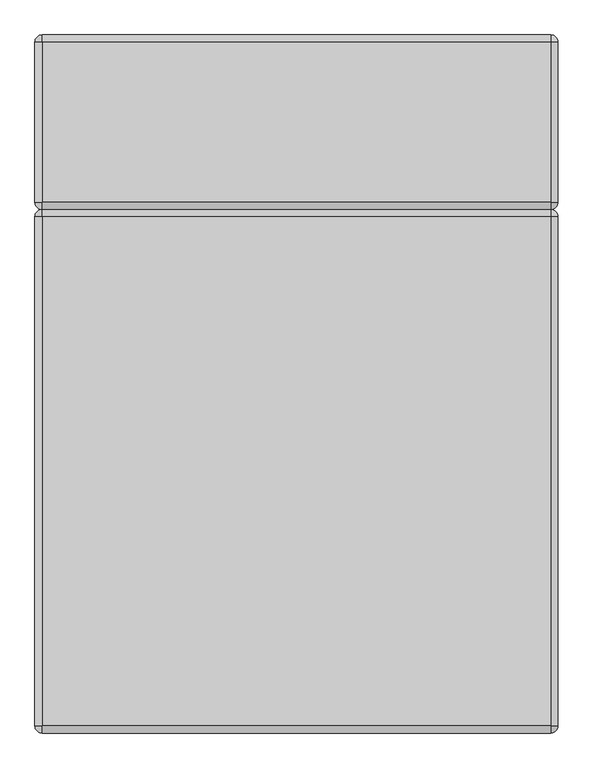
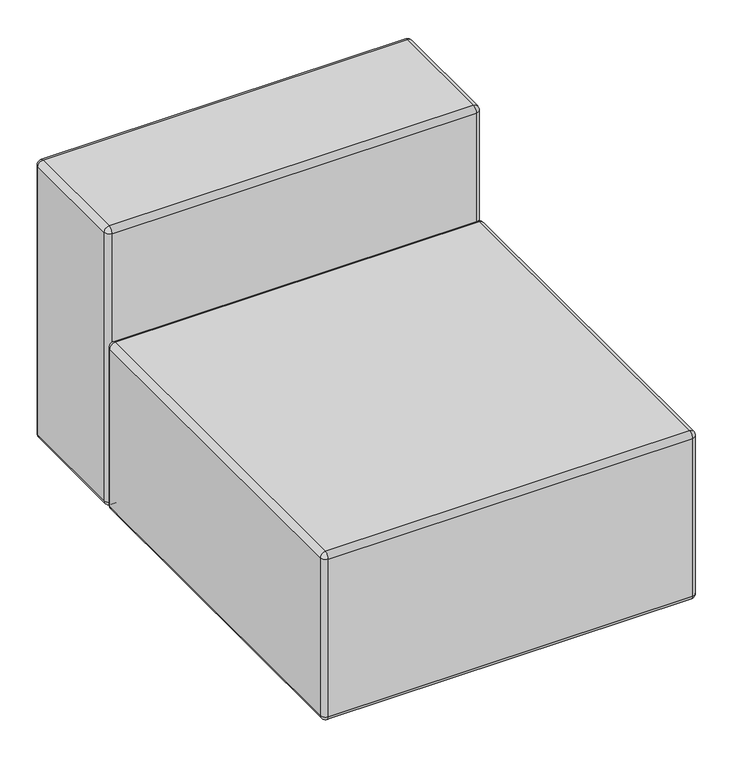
"""IFC4 building model written with IfcOpenShell, lengths in millimetres: furniture geometry, KFI Studios - Conversa : 36”x36” Seat with Back."""

from ifc_helpers import new_model, si_unit, point, frame, origin, place, context, project, spatial, polyline, circle_curve, ellipse_curve, trimmed, source, transform, mapped, element, save
from ifc_brep_helpers import plane_surface, cylinder_surface, revolved_surface, advanced_brep


def furniture_31a3f507(model_context):
    return source(origin(), model_context, "Body", "AdvancedBrep", [
        advanced_brep(
        [(373.3895895, 669.925, 25.4), (365.125, 669.925, 25.4), (356.8604105, 669.925, 25.4), (373.3895895, 669.925, 14.2843611), (356.8604105, 669.925, 14.2843611), (371.7876354, 669.925, 14.2843611), (358.4623646, 669.925, 14.2843611), (371.7876354, 669.925, 12.7064551), (358.4623646, 669.925, 12.7064551), (373.3890671, 669.925, 12.7064551), (356.8609329, 669.925, 12.7064551), (382.5741215, 669.925, 3.1950529), (347.6758785, 669.925, 3.1950529), (382.5741215, 669.925, 0.0), (347.6758785, 669.925, 0.0), (365.125, 669.925, 0.0)],
        [
            (0, 1),
            (1, 2),
            (2, 0, circle_curve(frame((365.125, 669.925, 25.4), z_axis=(0.0, 0.0, 1.0), x_axis=(-1.0, 0.0, 0.0)), 8.2645895)),
            (0, 2, circle_curve(frame((365.125, 669.925, 25.4), z_axis=(0.0, 0.0, 1.0), x_axis=(-1.0, 0.0, 0.0)), 8.2645895)),
            (3, 0),
            (2, 4),
            (4, 3, circle_curve(frame((365.125, 669.925, 14.2843611), z_axis=(0.0, 0.0, 1.0), x_axis=(-1.0, 0.0, 0.0)), 8.2645895)),
            (3, 4, circle_curve(frame((365.125, 669.925, 14.2843611), z_axis=(0.0, 0.0, 1.0), x_axis=(-1.0, 0.0, 0.0)), 8.2645895)),
            (5, 3),
            (4, 6),
            (6, 5, circle_curve(frame((365.125, 669.925, 14.2843611), z_axis=(0.0, 0.0, 1.0), x_axis=(-1.0, 0.0, 0.0)), 6.6626354)),
            (5, 6, circle_curve(frame((365.125, 669.925, 14.2843611), z_axis=(0.0, 0.0, 1.0), x_axis=(-1.0, 0.0, 0.0)), 6.6626354)),
            (7, 5),
            (6, 8),
            (8, 7, circle_curve(frame((365.125, 669.925, 12.7064551), z_axis=(0.0, 0.0, 1.0), x_axis=(-1.0, 0.0, 0.0)), 6.6626354)),
            (7, 8, circle_curve(frame((365.125, 669.925, 12.7064551), z_axis=(0.0, 0.0, 1.0), x_axis=(-1.0, 0.0, 0.0)), 6.6626354)),
            (9, 7),
            (8, 10),
            (10, 9, circle_curve(frame((365.125, 669.925, 12.7064551), z_axis=(0.0, 0.0, 1.0), x_axis=(-1.0, 0.0, 0.0)), 8.2640671)),
            (9, 10, circle_curve(frame((365.125, 669.925, 12.7064551), z_axis=(0.0, 0.0, 1.0), x_axis=(-1.0, 0.0, 0.0)), 8.2640671)),
            (11, 9),
            (10, 12),
            (12, 11, circle_curve(frame((365.125, 669.925, 3.1950529), z_axis=(0.0, 0.0, 1.0), x_axis=(-1.0, 0.0, 0.0)), 17.4491215)),
            (11, 12, circle_curve(frame((365.125, 669.925, 3.1950529), z_axis=(0.0, 0.0, 1.0), x_axis=(-1.0, 0.0, 0.0)), 17.4491215)),
            (13, 11),
            (12, 14),
            (14, 13, circle_curve(frame((365.125, 669.925, 0.0), z_axis=(0.0, 0.0, 1.0), x_axis=(-1.0, 0.0, 0.0)), 17.4491215)),
            (13, 14, circle_curve(frame((365.125, 669.925, 0.0), z_axis=(0.0, 0.0, 1.0), x_axis=(-1.0, 0.0, 0.0)), 17.4491215)),
            (15, 13),
            (14, 15),
        ],
        [
            plane_surface(frame((365.125, 669.925, 25.4), z_axis=(0.0, 0.0, 1.0), x_axis=(-1.0, 0.0, 0.0))),
            cylinder_surface(frame((365.125, 669.925, 33.820929), z_axis=(0.0, 0.0, -1.0), x_axis=(-1.0, 0.0, 0.0)), 8.2645895),
            plane_surface(frame((365.125, 669.925, 14.2843611), z_axis=(0.0, 0.0, -1.0), x_axis=(-1.0, 0.0, 0.0))),
            cylinder_surface(frame((365.125, 669.925, 33.820929), z_axis=(0.0, 0.0, -1.0), x_axis=(-1.0, 0.0, 0.0)), 6.6626354),
            plane_surface(frame((365.125, 669.925, 12.7064551), z_axis=(0.0, 0.0, 1.0), x_axis=(-1.0, 0.0, 0.0))),
            revolved_surface(polyline([(356.8609329, 669.925, 12.7064551), (347.6758785, 669.925, 3.1950529)]), (365.125, 669.925, 33.820929), (0.0, 0.0, -1.0)),
            cylinder_surface(frame((365.125, 669.925, 33.820929), z_axis=(0.0, 0.0, -1.0), x_axis=(-1.0, 0.0, 0.0)), 17.4491215),
            plane_surface(frame((365.125, 669.925, 0.0), z_axis=(0.0, 0.0, -1.0), x_axis=(-1.0, 0.0, 0.0))),
        ],
        [
            (0, [[1, 2, 3]]),
            (0, [[-2, -1, 4]]),
            (1, [[5, -3, 6, 7]]),
            (1, [[-6, -4, -5, 8]]),
            (2, [[9, -7, 10, 11]]),
            (2, [[-10, -8, -9, 12]]),
            (3, [[13, -11, 14, 15]]),
            (3, [[-14, -12, -13, 16]]),
            (4, [[17, -15, 18, 19]]),
            (4, [[-18, -16, -17, 20]]),
            (5, [[21, -19, 22, 23]]),
            (5, [[-22, -20, -21, 24]]),
            (6, [[25, -23, 26, 27]]),
            (6, [[-26, -24, -25, 28]]),
            (7, [[29, -27, 30]]),
            (7, [[-30, -28, -29]]),
        ],
    ),
        advanced_brep(
        [(-356.8604105, 669.925, 25.4), (-365.125, 669.925, 25.4), (-373.3895895, 669.925, 25.4), (-356.8604105, 669.925, 14.2843611), (-373.3895895, 669.925, 14.2843611), (-358.4623646, 669.925, 14.2843611), (-371.7876354, 669.925, 14.2843611), (-358.4623646, 669.925, 12.7064551), (-371.7876354, 669.925, 12.7064551), (-356.8609329, 669.925, 12.7064551), (-373.3890671, 669.925, 12.7064551), (-347.6758785, 669.925, 3.1950529), (-382.5741215, 669.925, 3.1950529), (-347.6758785, 669.925, 0.0), (-382.5741215, 669.925, 0.0), (-365.125, 669.925, 0.0)],
        [
            (0, 1),
            (1, 2),
            (2, 0, circle_curve(frame((-365.125, 669.925, 25.4), z_axis=(0.0, 0.0, 1.0), x_axis=(-1.0, 0.0, 0.0)), 8.2645895)),
            (0, 2, circle_curve(frame((-365.125, 669.925, 25.4), z_axis=(0.0, 0.0, 1.0), x_axis=(-1.0, 0.0, 0.0)), 8.2645895)),
            (3, 0),
            (2, 4),
            (4, 3, circle_curve(frame((-365.125, 669.925, 14.2843611), z_axis=(0.0, 0.0, 1.0), x_axis=(-1.0, 0.0, 0.0)), 8.2645895)),
            (3, 4, circle_curve(frame((-365.125, 669.925, 14.2843611), z_axis=(0.0, 0.0, 1.0), x_axis=(-1.0, 0.0, 0.0)), 8.2645895)),
            (5, 3),
            (4, 6),
            (6, 5, circle_curve(frame((-365.125, 669.925, 14.2843611), z_axis=(0.0, 0.0, 1.0), x_axis=(-1.0, 0.0, 0.0)), 6.6626354)),
            (5, 6, circle_curve(frame((-365.125, 669.925, 14.2843611), z_axis=(0.0, 0.0, 1.0), x_axis=(-1.0, 0.0, 0.0)), 6.6626354)),
            (7, 5),
            (6, 8),
            (8, 7, circle_curve(frame((-365.125, 669.925, 12.7064551), z_axis=(0.0, 0.0, 1.0), x_axis=(-1.0, 0.0, 0.0)), 6.6626354)),
            (7, 8, circle_curve(frame((-365.125, 669.925, 12.7064551), z_axis=(0.0, 0.0, 1.0), x_axis=(-1.0, 0.0, 0.0)), 6.6626354)),
            (9, 7),
            (8, 10),
            (10, 9, circle_curve(frame((-365.125, 669.925, 12.7064551), z_axis=(0.0, 0.0, 1.0), x_axis=(-1.0, 0.0, 0.0)), 8.2640671)),
            (9, 10, circle_curve(frame((-365.125, 669.925, 12.7064551), z_axis=(0.0, 0.0, 1.0), x_axis=(-1.0, 0.0, 0.0)), 8.2640671)),
            (11, 9),
            (10, 12),
            (12, 11, circle_curve(frame((-365.125, 669.925, 3.1950529), z_axis=(0.0, 0.0, 1.0), x_axis=(-1.0, 0.0, 0.0)), 17.4491215)),
            (11, 12, circle_curve(frame((-365.125, 669.925, 3.1950529), z_axis=(0.0, 0.0, 1.0), x_axis=(-1.0, 0.0, 0.0)), 17.4491215)),
            (13, 11),
            (12, 14),
            (14, 13, circle_curve(frame((-365.125, 669.925, 0.0), z_axis=(0.0, 0.0, 1.0), x_axis=(-1.0, 0.0, 0.0)), 17.4491215)),
            (13, 14, circle_curve(frame((-365.125, 669.925, 0.0), z_axis=(0.0, 0.0, 1.0), x_axis=(-1.0, 0.0, 0.0)), 17.4491215)),
            (15, 13),
            (14, 15),
        ],
        [
            plane_surface(frame((-365.125, 669.925, 25.4), z_axis=(0.0, 0.0, 1.0), x_axis=(-1.0, 0.0, 0.0))),
            cylinder_surface(frame((-365.125, 669.925, 33.820929), z_axis=(0.0, 0.0, -1.0), x_axis=(-1.0, 0.0, 0.0)), 8.2645895),
            plane_surface(frame((-365.125, 669.925, 14.2843611), z_axis=(0.0, 0.0, -1.0), x_axis=(-1.0, 0.0, 0.0))),
            cylinder_surface(frame((-365.125, 669.925, 33.820929), z_axis=(0.0, 0.0, -1.0), x_axis=(-1.0, 0.0, 0.0)), 6.6626354),
            plane_surface(frame((-365.125, 669.925, 12.7064551), z_axis=(0.0, 0.0, 1.0), x_axis=(-1.0, 0.0, 0.0))),
            revolved_surface(polyline([(-373.3890671, 669.925, 12.7064551), (-382.5741215, 669.925, 3.1950529)]), (-365.125, 669.925, 33.820929), (0.0, 0.0, -1.0)),
            cylinder_surface(frame((-365.125, 669.925, 33.820929), z_axis=(0.0, 0.0, -1.0), x_axis=(-1.0, 0.0, 0.0)), 17.4491215),
            plane_surface(frame((-365.125, 669.925, 0.0), z_axis=(0.0, 0.0, -1.0), x_axis=(-1.0, 0.0, 0.0))),
        ],
        [
            (0, [[1, 2, 3]]),
            (0, [[-2, -1, 4]]),
            (1, [[5, -3, 6, 7]]),
            (1, [[-6, -4, -5, 8]]),
            (2, [[9, -7, 10, 11]]),
            (2, [[-10, -8, -9, 12]]),
            (3, [[13, -11, 14, 15]]),
            (3, [[-14, -12, -13, 16]]),
            (4, [[17, -15, 18, 19]]),
            (4, [[-18, -16, -17, 20]]),
            (5, [[21, -19, 22, 23]]),
            (5, [[-22, -20, -21, 24]]),
            (6, [[25, -23, 26, 27]]),
            (6, [[-26, -24, -25, 28]]),
            (7, [[29, -27, 30]]),
            (7, [[-30, -28, -29]]),
        ],
    ),
        advanced_brep(
        [(-457.2, 749.3, 730.25), (-457.2, 469.9, 730.25), (-444.5, 469.9, 742.95), (-444.5, 749.3, 742.95), (-457.2, 749.3, 38.1), (-457.2, 469.9, 38.1), (-444.5, 749.3, 25.4), (-444.5, 469.9, 25.4), (-444.5, 457.2, 730.25), (444.5, 457.2, 730.25), (444.5, 469.9, 742.95), (-444.5, 457.2, 38.1), (444.5, 457.2, 38.1), (444.5, 469.9, 25.4), (444.5, 749.3, 742.95), (444.5, 749.3, 25.4), (444.5, 762.0, 730.25), (-444.5, 762.0, 730.25), (444.5, 762.0, 38.1), (-444.5, 762.0, 38.1), (457.2, 469.9, 730.25), (457.2, 749.3, 730.25), (457.2, 469.9, 38.1), (457.2, 749.3, 38.1)],
        [
            (0, 1),
            (1, 2, circle_curve(frame((-444.5, 469.9, 730.25), z_axis=(0.0, 1.0, 0.0), x_axis=(-1.0, 0.0, 0.0)), 12.7)),
            (2, 3),
            (3, 0, circle_curve(frame((-444.5, 749.3, 730.25), z_axis=(0.0, -1.0, 0.0), x_axis=(-1.0, 0.0, 0.0)), 12.7)),
            (0, 4),
            (4, 5),
            (5, 1),
            (4, 6, circle_curve(frame((-444.5, 749.3, 38.1), z_axis=(0.0, -1.0, 0.0), x_axis=(-1.0, 0.0, 0.0)), 12.7)),
            (6, 7),
            (7, 5, circle_curve(frame((-444.5, 469.9, 38.1), z_axis=(0.0, 1.0, 0.0), x_axis=(-1.0, 0.0, 0.0)), 12.7)),
            (8, 9),
            (9, 10, circle_curve(frame((444.5, 469.9, 730.25), z_axis=(-1.0, 0.0, 0.0), x_axis=(0.0, 1.0, 0.0)), 12.7)),
            (10, 2),
            (2, 8, circle_curve(frame((-444.5, 469.9, 730.25), z_axis=(1.0, 0.0, 0.0), x_axis=(0.0, 1.0, 0.0)), 12.7)),
            (8, 11),
            (11, 12),
            (12, 9),
            (11, 7, circle_curve(frame((-444.5, 469.9, 38.1), z_axis=(1.0, 0.0, 0.0), x_axis=(0.0, 1.0, 0.0)), 12.7)),
            (7, 13),
            (13, 12, circle_curve(frame((444.5, 469.9, 38.1), z_axis=(-1.0, 0.0, 0.0), x_axis=(0.0, 1.0, 0.0)), 12.7)),
            (10, 14),
            (14, 3),
            (6, 15),
            (15, 13),
            (16, 17),
            (17, 3, circle_curve(frame((-444.5, 749.3, 730.25), z_axis=(1.0, 0.0, 0.0), x_axis=(0.0, 1.0, 0.0)), 12.7)),
            (14, 16, circle_curve(frame((444.5, 749.3, 730.25), z_axis=(-1.0, 0.0, 0.0), x_axis=(0.0, 1.0, 0.0)), 12.7)),
            (16, 18),
            (18, 19),
            (19, 17),
            (18, 15, circle_curve(frame((444.5, 749.3, 38.1), z_axis=(-1.0, 0.0, 0.0), x_axis=(0.0, 1.0, 0.0)), 12.7)),
            (6, 19, circle_curve(frame((-444.5, 749.3, 38.1), z_axis=(1.0, 0.0, 0.0), x_axis=(0.0, 1.0, 0.0)), 12.7)),
            (20, 21),
            (21, 14, circle_curve(frame((444.5, 749.3, 730.25), z_axis=(0.0, -1.0, 0.0), x_axis=(-1.0, 0.0, 0.0)), 12.7)),
            (10, 20, circle_curve(frame((444.5, 469.9, 730.25), z_axis=(0.0, 1.0, 0.0), x_axis=(-1.0, 0.0, 0.0)), 12.7)),
            (20, 22),
            (22, 23),
            (23, 21),
            (22, 13, circle_curve(frame((444.5, 469.9, 38.1), z_axis=(0.0, 1.0, 0.0), x_axis=(-1.0, 0.0, 0.0)), 12.7)),
            (15, 23, circle_curve(frame((444.5, 749.3, 38.1), z_axis=(0.0, -1.0, 0.0), x_axis=(-1.0, 0.0, 0.0)), 12.7)),
            (19, 4, circle_curve(frame((-444.5, 749.3, 38.1), z_axis=(0.0, 0.0, 1.0), x_axis=(-1.0, 0.0, 0.0)), 12.7)),
            (0, 17, circle_curve(frame((-444.5, 749.3, 730.25), z_axis=(0.0, 0.0, -1.0), x_axis=(-1.0, 0.0, 0.0)), 12.7)),
            (8, 1, circle_curve(frame((-444.5, 469.9, 730.25), z_axis=(0.0, 0.0, -1.0), x_axis=(-1.0, 0.0, 0.0)), 12.7)),
            (5, 11, circle_curve(frame((-444.5, 469.9, 38.1), z_axis=(0.0, 0.0, 1.0), x_axis=(-1.0, 0.0, 0.0)), 12.7)),
            (12, 22, circle_curve(frame((444.5, 469.9, 38.1), z_axis=(0.0, 0.0, 1.0), x_axis=(1.0, 0.0, 0.0)), 12.7)),
            (20, 9, circle_curve(frame((444.5, 469.9, 730.25), z_axis=(0.0, 0.0, -1.0), x_axis=(1.0, 0.0, 0.0)), 12.7)),
            (16, 21, circle_curve(frame((444.5, 749.3, 730.25), z_axis=(0.0, 0.0, -1.0), x_axis=(1.0, 0.0, 0.0)), 12.7)),
            (23, 18, circle_curve(frame((444.5, 749.3, 38.1), z_axis=(0.0, 0.0, 1.0), x_axis=(1.0, 0.0, 0.0)), 12.7)),
        ],
        [
            cylinder_surface(frame((-444.5, 469.9, 730.25), z_axis=(0.0, -1.0, 0.0), x_axis=(-1.0, 0.0, 0.0)), 12.7),
            plane_surface(frame((-457.2, 469.9, 730.25), z_axis=(-1.0, 0.0, 0.0), x_axis=(0.0, 1.0, 0.0))),
            cylinder_surface(frame((-444.5, 469.9, 38.1), z_axis=(0.0, -1.0, 0.0), x_axis=(-1.0, 0.0, 0.0)), 12.7),
            cylinder_surface(frame((-444.5, 469.9, 730.25), z_axis=(-1.0, 0.0, 0.0), x_axis=(0.0, 1.0, 0.0)), 12.7),
            plane_surface(frame((-444.5, 457.2, 38.1), z_axis=(0.0, -1.0, 0.0), x_axis=(1.0, 0.0, 0.0))),
            cylinder_surface(frame((-444.5, 469.9, 38.1), z_axis=(-1.0, 0.0, 0.0), x_axis=(0.0, 1.0, 0.0)), 12.7),
            plane_surface(frame((-444.5, 749.3, 742.95), z_axis=(0.0, 0.0, 1.0), x_axis=(-1.0, 0.0, 0.0))),
            plane_surface(frame((-444.5, 749.3, 25.4), z_axis=(0.0, 0.0, -1.0), x_axis=(1.0, 0.0, 0.0))),
            cylinder_surface(frame((-444.5, 749.3, 730.25), z_axis=(-1.0, 0.0, 0.0), x_axis=(0.0, 1.0, 0.0)), 12.7),
            plane_surface(frame((-444.5, 762.0, 730.25), z_axis=(0.0, 1.0, 0.0), x_axis=(1.0, 0.0, 0.0))),
            cylinder_surface(frame((-444.5, 749.3, 38.1), z_axis=(-1.0, 0.0, 0.0), x_axis=(0.0, 1.0, 0.0)), 12.7),
            cylinder_surface(frame((444.5, 469.9, 730.25), z_axis=(0.0, -1.0, 0.0), x_axis=(-1.0, 0.0, 0.0)), 12.7),
            plane_surface(frame((457.2, 469.9, 38.1), z_axis=(1.0, 0.0, 0.0), x_axis=(0.0, 1.0, 0.0))),
            cylinder_surface(frame((444.5, 469.9, 38.1), z_axis=(0.0, -1.0, 0.0), x_axis=(-1.0, 0.0, 0.0)), 12.7),
            cylinder_surface(frame((-444.5, 749.3, 742.95), z_axis=(0.0, 0.0, 1.0), x_axis=(-1.0, 0.0, 0.0)), 12.7),
            revolved_surface(trimmed(ellipse_curve(frame((-444.5, 749.3, 38.1), z_axis=(0.0, 1.0, 0.0), x_axis=(0.0, 0.0, 1.0)), 12.7, 12.7), [point((-444.5, 749.3, 25.4))], [point((-457.2, 749.3, 38.1))], True, "CARTESIAN"), (-444.5, 749.3, 742.95), (0.0, 0.0, 1.0)),
            revolved_surface(trimmed(ellipse_curve(frame((-444.5, 749.3, 730.25), z_axis=(0.0, 1.0, 0.0), x_axis=(0.0, 0.0, 1.0)), 12.7, 12.7), [point((-457.2, 749.3, 730.25))], [point((-444.5, 749.3, 742.95))], True, "CARTESIAN"), (-444.5, 749.3, 742.95), (0.0, 0.0, 1.0)),
            cylinder_surface(frame((-444.5, 469.9, 592.6689642), z_axis=(0.0, 0.0, -1.0), x_axis=(-1.0, 0.0, 0.0)), 12.7),
            revolved_surface(trimmed(ellipse_curve(frame((-444.5, 469.9, 730.25), z_axis=(0.0, -1.0, 0.0), x_axis=(1.0, 0.0, 0.0)), 12.7, 12.7), [point((-444.5, 469.9, 742.95))], [point((-457.2, 469.9, 730.25))], True, "CARTESIAN"), (-444.5, 469.9, 592.6689642), (0.0, 0.0, -1.0)),
            revolved_surface(trimmed(ellipse_curve(frame((-444.5, 469.9, 38.1), z_axis=(0.0, -1.0, 0.0), x_axis=(1.0, 0.0, 0.0)), 12.7, 12.7), [point((-457.2, 469.9, 38.1))], [point((-444.5, 469.9, 25.4))], True, "CARTESIAN"), (-444.5, 469.9, 592.6689642), (0.0, 0.0, -1.0)),
            cylinder_surface(frame((444.5, 469.9, 742.95), z_axis=(0.0, 0.0, 1.0), x_axis=(1.0, 0.0, 0.0)), 12.7),
            revolved_surface(trimmed(ellipse_curve(frame((444.5, 469.9, 38.1), z_axis=(0.0, -1.0, 0.0), x_axis=(1.0, 0.0, 0.0)), 12.7, 12.7), [point((444.5, 469.9, 25.4))], [point((457.2, 469.9, 38.1))], True, "CARTESIAN"), (444.5, 469.9, 742.95), (0.0, 0.0, 1.0)),
            revolved_surface(trimmed(ellipse_curve(frame((444.5, 469.9, 730.25), z_axis=(0.0, -1.0, 0.0), x_axis=(1.0, 0.0, 0.0)), 12.7, 12.7), [point((457.2, 469.9, 730.25))], [point((444.5, 469.9, 742.95))], True, "CARTESIAN"), (444.5, 469.9, 742.95), (0.0, 0.0, 1.0)),
            cylinder_surface(frame((444.5, 749.3, 592.6689642), z_axis=(0.0, 0.0, -1.0), x_axis=(1.0, 0.0, 0.0)), 12.7),
            revolved_surface(trimmed(ellipse_curve(frame((444.5, 749.3, 730.25), z_axis=(0.0, 1.0, 0.0), x_axis=(0.0, 0.0, 1.0)), 12.7, 12.7), [point((444.5, 749.3, 742.95))], [point((457.2, 749.3, 730.25))], True, "CARTESIAN"), (444.5, 749.3, 592.6689642), (0.0, 0.0, -1.0)),
            revolved_surface(trimmed(ellipse_curve(frame((444.5, 749.3, 38.1), z_axis=(0.0, 1.0, 0.0), x_axis=(0.0, 0.0, 1.0)), 12.7, 12.7), [point((457.2, 749.3, 38.1))], [point((444.5, 749.3, 25.4))], True, "CARTESIAN"), (444.5, 749.3, 592.6689642), (0.0, 0.0, -1.0)),
        ],
        [
            (0, [[1, 2, 3, 4]]),
            (1, [[-1, 5, 6, 7]]),
            (2, [[-6, 8, 9, 10]]),
            (3, [[11, 12, 13, 14]]),
            (4, [[-11, 15, 16, 17]]),
            (5, [[-16, 18, 19, 20]]),
            (6, [[-3, -13, 21, 22]]),
            (7, [[-9, 23, 24, -19]]),
            (8, [[25, 26, -22, 27]]),
            (9, [[-25, 28, 29, 30]]),
            (10, [[-29, 31, -23, 32]]),
            (11, [[33, 34, -21, 35]]),
            (12, [[-33, 36, 37, 38]]),
            (13, [[-37, 39, -24, 40]]),
            (14, [[41, -5, 42, -30]]),
            (15, [[-41, -32, -8]]),
            (16, [[-42, -4, -26]]),
            (17, [[43, -7, 44, -15]]),
            (18, [[-43, -14, -2]]),
            (19, [[-44, -10, -18]]),
            (20, [[45, -36, 46, -17]]),
            (21, [[-45, -20, -39]]),
            (22, [[-46, -35, -12]]),
            (23, [[47, -38, 48, -28]]),
            (24, [[-47, -27, -34]]),
            (25, [[-48, -40, -31]]),
        ],
    ),
        advanced_brep(
        [(373.3895895, 365.125, 25.4), (365.125, 365.125, 25.4), (356.8604105, 365.125, 25.4), (373.3895895, 365.125, 14.2843611), (356.8604105, 365.125, 14.2843611), (371.7876354, 365.125, 14.2843611), (358.4623646, 365.125, 14.2843611), (371.7876354, 365.125, 12.7064551), (358.4623646, 365.125, 12.7064551), (373.3890671, 365.125, 12.7064551), (356.8609329, 365.125, 12.7064551), (382.5741215, 365.125, 3.1950529), (347.6758785, 365.125, 3.1950529), (382.5741215, 365.125, 0.0), (347.6758785, 365.125, 0.0), (365.125, 365.125, 0.0)],
        [
            (0, 1),
            (1, 2),
            (2, 0, circle_curve(frame((365.125, 365.125, 25.4), z_axis=(0.0, 0.0, 1.0), x_axis=(-1.0, 0.0, 0.0)), 8.2645895)),
            (0, 2, circle_curve(frame((365.125, 365.125, 25.4), z_axis=(0.0, 0.0, 1.0), x_axis=(-1.0, 0.0, 0.0)), 8.2645895)),
            (3, 0),
            (2, 4),
            (4, 3, circle_curve(frame((365.125, 365.125, 14.2843611), z_axis=(0.0, 0.0, 1.0), x_axis=(-1.0, 0.0, 0.0)), 8.2645895)),
            (3, 4, circle_curve(frame((365.125, 365.125, 14.2843611), z_axis=(0.0, 0.0, 1.0), x_axis=(-1.0, 0.0, 0.0)), 8.2645895)),
            (5, 3),
            (4, 6),
            (6, 5, circle_curve(frame((365.125, 365.125, 14.2843611), z_axis=(0.0, 0.0, 1.0), x_axis=(-1.0, 0.0, 0.0)), 6.6626354)),
            (5, 6, circle_curve(frame((365.125, 365.125, 14.2843611), z_axis=(0.0, 0.0, 1.0), x_axis=(-1.0, 0.0, 0.0)), 6.6626354)),
            (7, 5),
            (6, 8),
            (8, 7, circle_curve(frame((365.125, 365.125, 12.7064551), z_axis=(0.0, 0.0, 1.0), x_axis=(-1.0, 0.0, 0.0)), 6.6626354)),
            (7, 8, circle_curve(frame((365.125, 365.125, 12.7064551), z_axis=(0.0, 0.0, 1.0), x_axis=(-1.0, 0.0, 0.0)), 6.6626354)),
            (9, 7),
            (8, 10),
            (10, 9, circle_curve(frame((365.125, 365.125, 12.7064551), z_axis=(0.0, 0.0, 1.0), x_axis=(-1.0, 0.0, 0.0)), 8.2640671)),
            (9, 10, circle_curve(frame((365.125, 365.125, 12.7064551), z_axis=(0.0, 0.0, 1.0), x_axis=(-1.0, 0.0, 0.0)), 8.2640671)),
            (11, 9),
            (10, 12),
            (12, 11, circle_curve(frame((365.125, 365.125, 3.1950529), z_axis=(0.0, 0.0, 1.0), x_axis=(-1.0, 0.0, 0.0)), 17.4491215)),
            (11, 12, circle_curve(frame((365.125, 365.125, 3.1950529), z_axis=(0.0, 0.0, 1.0), x_axis=(-1.0, 0.0, 0.0)), 17.4491215)),
            (13, 11),
            (12, 14),
            (14, 13, circle_curve(frame((365.125, 365.125, 0.0), z_axis=(0.0, 0.0, 1.0), x_axis=(-1.0, 0.0, 0.0)), 17.4491215)),
            (13, 14, circle_curve(frame((365.125, 365.125, 0.0), z_axis=(0.0, 0.0, 1.0), x_axis=(-1.0, 0.0, 0.0)), 17.4491215)),
            (15, 13),
            (14, 15),
        ],
        [
            plane_surface(frame((365.125, 365.125, 25.4), z_axis=(0.0, 0.0, 1.0), x_axis=(-1.0, 0.0, 0.0))),
            cylinder_surface(frame((365.125, 365.125, 33.820929), z_axis=(0.0, 0.0, -1.0), x_axis=(-1.0, 0.0, 0.0)), 8.2645895),
            plane_surface(frame((365.125, 365.125, 14.2843611), z_axis=(0.0, 0.0, -1.0), x_axis=(-1.0, 0.0, 0.0))),
            cylinder_surface(frame((365.125, 365.125, 33.820929), z_axis=(0.0, 0.0, -1.0), x_axis=(-1.0, 0.0, 0.0)), 6.6626354),
            plane_surface(frame((365.125, 365.125, 12.7064551), z_axis=(0.0, 0.0, 1.0), x_axis=(-1.0, 0.0, 0.0))),
            revolved_surface(polyline([(356.8609329, 365.125, 12.7064551), (347.6758785, 365.125, 3.1950529)]), (365.125, 365.125, 33.820929), (0.0, 0.0, -1.0)),
            cylinder_surface(frame((365.125, 365.125, 33.820929), z_axis=(0.0, 0.0, -1.0), x_axis=(-1.0, 0.0, 0.0)), 17.4491215),
            plane_surface(frame((365.125, 365.125, 0.0), z_axis=(0.0, 0.0, -1.0), x_axis=(-1.0, 0.0, 0.0))),
        ],
        [
            (0, [[1, 2, 3]]),
            (0, [[-2, -1, 4]]),
            (1, [[5, -3, 6, 7]]),
            (1, [[-6, -4, -5, 8]]),
            (2, [[9, -7, 10, 11]]),
            (2, [[-10, -8, -9, 12]]),
            (3, [[13, -11, 14, 15]]),
            (3, [[-14, -12, -13, 16]]),
            (4, [[17, -15, 18, 19]]),
            (4, [[-18, -16, -17, 20]]),
            (5, [[21, -19, 22, 23]]),
            (5, [[-22, -20, -21, 24]]),
            (6, [[25, -23, 26, 27]]),
            (6, [[-26, -24, -25, 28]]),
            (7, [[29, -27, 30]]),
            (7, [[-30, -28, -29]]),
        ],
    ),
        advanced_brep(
        [(-356.8604105, 365.125, 25.4), (-365.125, 365.125, 25.4), (-373.3895895, 365.125, 25.4), (-356.8604105, 365.125, 14.2843611), (-373.3895895, 365.125, 14.2843611), (-358.4623646, 365.125, 14.2843611), (-371.7876354, 365.125, 14.2843611), (-358.4623646, 365.125, 12.7064551), (-371.7876354, 365.125, 12.7064551), (-356.8609329, 365.125, 12.7064551), (-373.3890671, 365.125, 12.7064551), (-347.6758785, 365.125, 3.1950529), (-382.5741215, 365.125, 3.1950529), (-347.6758785, 365.125, 0.0), (-382.5741215, 365.125, 0.0), (-365.125, 365.125, 0.0)],
        [
            (0, 1),
            (1, 2),
            (2, 0, circle_curve(frame((-365.125, 365.125, 25.4), z_axis=(0.0, 0.0, 1.0), x_axis=(-1.0, 0.0, 0.0)), 8.2645895)),
            (0, 2, circle_curve(frame((-365.125, 365.125, 25.4), z_axis=(0.0, 0.0, 1.0), x_axis=(-1.0, 0.0, 0.0)), 8.2645895)),
            (3, 0),
            (2, 4),
            (4, 3, circle_curve(frame((-365.125, 365.125, 14.2843611), z_axis=(0.0, 0.0, 1.0), x_axis=(-1.0, 0.0, 0.0)), 8.2645895)),
            (3, 4, circle_curve(frame((-365.125, 365.125, 14.2843611), z_axis=(0.0, 0.0, 1.0), x_axis=(-1.0, 0.0, 0.0)), 8.2645895)),
            (5, 3),
            (4, 6),
            (6, 5, circle_curve(frame((-365.125, 365.125, 14.2843611), z_axis=(0.0, 0.0, 1.0), x_axis=(-1.0, 0.0, 0.0)), 6.6626354)),
            (5, 6, circle_curve(frame((-365.125, 365.125, 14.2843611), z_axis=(0.0, 0.0, 1.0), x_axis=(-1.0, 0.0, 0.0)), 6.6626354)),
            (7, 5),
            (6, 8),
            (8, 7, circle_curve(frame((-365.125, 365.125, 12.7064551), z_axis=(0.0, 0.0, 1.0), x_axis=(-1.0, 0.0, 0.0)), 6.6626354)),
            (7, 8, circle_curve(frame((-365.125, 365.125, 12.7064551), z_axis=(0.0, 0.0, 1.0), x_axis=(-1.0, 0.0, 0.0)), 6.6626354)),
            (9, 7),
            (8, 10),
            (10, 9, circle_curve(frame((-365.125, 365.125, 12.7064551), z_axis=(0.0, 0.0, 1.0), x_axis=(-1.0, 0.0, 0.0)), 8.2640671)),
            (9, 10, circle_curve(frame((-365.125, 365.125, 12.7064551), z_axis=(0.0, 0.0, 1.0), x_axis=(-1.0, 0.0, 0.0)), 8.2640671)),
            (11, 9),
            (10, 12),
            (12, 11, circle_curve(frame((-365.125, 365.125, 3.1950529), z_axis=(0.0, 0.0, 1.0), x_axis=(-1.0, 0.0, 0.0)), 17.4491215)),
            (11, 12, circle_curve(frame((-365.125, 365.125, 3.1950529), z_axis=(0.0, 0.0, 1.0), x_axis=(-1.0, 0.0, 0.0)), 17.4491215)),
            (13, 11),
            (12, 14),
            (14, 13, circle_curve(frame((-365.125, 365.125, 0.0), z_axis=(0.0, 0.0, 1.0), x_axis=(-1.0, 0.0, 0.0)), 17.4491215)),
            (13, 14, circle_curve(frame((-365.125, 365.125, 0.0), z_axis=(0.0, 0.0, 1.0), x_axis=(-1.0, 0.0, 0.0)), 17.4491215)),
            (15, 13),
            (14, 15),
        ],
        [
            plane_surface(frame((-365.125, 365.125, 25.4), z_axis=(0.0, 0.0, 1.0), x_axis=(-1.0, 0.0, 0.0))),
            cylinder_surface(frame((-365.125, 365.125, 33.820929), z_axis=(0.0, 0.0, -1.0), x_axis=(-1.0, 0.0, 0.0)), 8.2645895),
            plane_surface(frame((-365.125, 365.125, 14.2843611), z_axis=(0.0, 0.0, -1.0), x_axis=(-1.0, 0.0, 0.0))),
            cylinder_surface(frame((-365.125, 365.125, 33.820929), z_axis=(0.0, 0.0, -1.0), x_axis=(-1.0, 0.0, 0.0)), 6.6626354),
            plane_surface(frame((-365.125, 365.125, 12.7064551), z_axis=(0.0, 0.0, 1.0), x_axis=(-1.0, 0.0, 0.0))),
            revolved_surface(polyline([(-373.3890671, 365.125, 12.7064551), (-382.5741215, 365.125, 3.1950529)]), (-365.125, 365.125, 33.820929), (0.0, 0.0, -1.0)),
            cylinder_surface(frame((-365.125, 365.125, 33.820929), z_axis=(0.0, 0.0, -1.0), x_axis=(-1.0, 0.0, 0.0)), 17.4491215),
            plane_surface(frame((-365.125, 365.125, 0.0), z_axis=(0.0, 0.0, -1.0), x_axis=(-1.0, 0.0, 0.0))),
        ],
        [
            (0, [[1, 2, 3]]),
            (0, [[-2, -1, 4]]),
            (1, [[5, -3, 6, 7]]),
            (1, [[-6, -4, -5, 8]]),
            (2, [[9, -7, 10, 11]]),
            (2, [[-10, -8, -9, 12]]),
            (3, [[13, -11, 14, 15]]),
            (3, [[-14, -12, -13, 16]]),
            (4, [[17, -15, 18, 19]]),
            (4, [[-18, -16, -17, 20]]),
            (5, [[21, -19, 22, 23]]),
            (5, [[-22, -20, -21, 24]]),
            (6, [[25, -23, 26, 27]]),
            (6, [[-26, -24, -25, 28]]),
            (7, [[29, -27, 30]]),
            (7, [[-30, -28, -29]]),
        ],
    ),
        advanced_brep(
        [(373.3895895, -365.125, 25.4), (356.8604105, -365.125, 25.4), (365.125, -365.125, 25.4), (373.3895895, -365.125, 14.2843611), (356.8604105, -365.125, 14.2843611), (371.7876354, -365.125, 14.2843611), (358.4623646, -365.125, 14.2843611), (371.7876354, -365.125, 12.7064551), (358.4623646, -365.125, 12.7064551), (373.3890671, -365.125, 12.7064551), (356.8609329, -365.125, 12.7064551), (382.5741215, -365.125, 3.1950529), (347.6758785, -365.125, 3.1950529), (382.5741215, -365.125, 0.0), (347.6758785, -365.125, 0.0), (365.125, -365.125, 0.0)],
        [
            (0, 1, circle_curve(frame((365.125, -365.125, 25.4), z_axis=(0.0, 0.0, 1.0), x_axis=(-1.0, 0.0, 0.0)), 8.2645895)),
            (1, 2),
            (2, 0),
            (1, 0, circle_curve(frame((365.125, -365.125, 25.4), z_axis=(0.0, 0.0, 1.0), x_axis=(-1.0, 0.0, 0.0)), 8.2645895)),
            (3, 4, circle_curve(frame((365.125, -365.125, 14.2843611), z_axis=(0.0, 0.0, 1.0), x_axis=(-1.0, 0.0, 0.0)), 8.2645895)),
            (4, 1),
            (0, 3),
            (4, 3, circle_curve(frame((365.125, -365.125, 14.2843611), z_axis=(0.0, 0.0, 1.0), x_axis=(-1.0, 0.0, 0.0)), 8.2645895)),
            (5, 6, circle_curve(frame((365.125, -365.125, 14.2843611), z_axis=(0.0, 0.0, 1.0), x_axis=(-1.0, 0.0, 0.0)), 6.6626354)),
            (6, 4),
            (3, 5),
            (6, 5, circle_curve(frame((365.125, -365.125, 14.2843611), z_axis=(0.0, 0.0, 1.0), x_axis=(-1.0, 0.0, 0.0)), 6.6626354)),
            (7, 8, circle_curve(frame((365.125, -365.125, 12.7064551), z_axis=(0.0, 0.0, 1.0), x_axis=(-1.0, 0.0, 0.0)), 6.6626354)),
            (8, 6),
            (5, 7),
            (8, 7, circle_curve(frame((365.125, -365.125, 12.7064551), z_axis=(0.0, 0.0, 1.0), x_axis=(-1.0, 0.0, 0.0)), 6.6626354)),
            (9, 10, circle_curve(frame((365.125, -365.125, 12.7064551), z_axis=(0.0, 0.0, 1.0), x_axis=(-1.0, 0.0, 0.0)), 8.2640671)),
            (10, 8),
            (7, 9),
            (10, 9, circle_curve(frame((365.125, -365.125, 12.7064551), z_axis=(0.0, 0.0, 1.0), x_axis=(-1.0, 0.0, 0.0)), 8.2640671)),
            (11, 12, circle_curve(frame((365.125, -365.125, 3.1950529), z_axis=(0.0, 0.0, 1.0), x_axis=(-1.0, 0.0, 0.0)), 17.4491215)),
            (12, 10),
            (9, 11),
            (12, 11, circle_curve(frame((365.125, -365.125, 3.1950529), z_axis=(0.0, 0.0, 1.0), x_axis=(-1.0, 0.0, 0.0)), 17.4491215)),
            (13, 14, circle_curve(frame((365.125, -365.125, 0.0), z_axis=(0.0, 0.0, 1.0), x_axis=(-1.0, 0.0, 0.0)), 17.4491215)),
            (14, 12),
            (11, 13),
            (14, 13, circle_curve(frame((365.125, -365.125, 0.0), z_axis=(0.0, 0.0, 1.0), x_axis=(-1.0, 0.0, 0.0)), 17.4491215)),
            (15, 14),
            (13, 15),
        ],
        [
            plane_surface(frame((365.125, -365.125, 25.4), z_axis=(0.0, 0.0, 1.0), x_axis=(-1.0, 0.0, 0.0))),
            cylinder_surface(frame((365.125, -365.125, 33.820929), z_axis=(0.0, 0.0, -1.0), x_axis=(-1.0, 0.0, 0.0)), 8.2645895),
            plane_surface(frame((365.125, -365.125, 14.2843611), z_axis=(0.0, 0.0, -1.0), x_axis=(-1.0, 0.0, 0.0))),
            cylinder_surface(frame((365.125, -365.125, 33.820929), z_axis=(0.0, 0.0, -1.0), x_axis=(-1.0, 0.0, 0.0)), 6.6626354),
            plane_surface(frame((365.125, -365.125, 12.7064551), z_axis=(0.0, 0.0, 1.0), x_axis=(-1.0, 0.0, 0.0))),
            revolved_surface(polyline([(356.8609329, -365.125, 12.7064551), (347.6758785, -365.125, 3.1950529)]), (365.125, -365.125, 33.820929), (0.0, 0.0, -1.0)),
            cylinder_surface(frame((365.125, -365.125, 33.820929), z_axis=(0.0, 0.0, -1.0), x_axis=(-1.0, 0.0, 0.0)), 17.4491215),
            plane_surface(frame((365.125, -365.125, 0.0), z_axis=(0.0, 0.0, -1.0), x_axis=(-1.0, 0.0, 0.0))),
        ],
        [
            (0, [[1, 2, 3]]),
            (0, [[4, -3, -2]]),
            (1, [[5, 6, -1, 7]]),
            (1, [[8, -7, -4, -6]]),
            (2, [[9, 10, -5, 11]]),
            (2, [[12, -11, -8, -10]]),
            (3, [[13, 14, -9, 15]]),
            (3, [[16, -15, -12, -14]]),
            (4, [[17, 18, -13, 19]]),
            (4, [[20, -19, -16, -18]]),
            (5, [[21, 22, -17, 23]]),
            (5, [[24, -23, -20, -22]]),
            (6, [[25, 26, -21, 27]]),
            (6, [[28, -27, -24, -26]]),
            (7, [[29, -25, 30]]),
            (7, [[-30, -28, -29]]),
        ],
    ),
        advanced_brep(
        [(-356.8604105, -365.125, 25.4), (-373.3895895, -365.125, 25.4), (-365.125, -365.125, 25.4), (-356.8604105, -365.125, 14.2843611), (-373.3895895, -365.125, 14.2843611), (-358.4623646, -365.125, 14.2843611), (-371.7876354, -365.125, 14.2843611), (-358.4623646, -365.125, 12.7064551), (-371.7876354, -365.125, 12.7064551), (-356.8609329, -365.125, 12.7064551), (-373.3890671, -365.125, 12.7064551), (-347.6758785, -365.125, 3.1950529), (-382.5741215, -365.125, 3.1950529), (-347.6758785, -365.125, 0.0), (-382.5741215, -365.125, 0.0), (-365.125, -365.125, 0.0)],
        [
            (0, 1, circle_curve(frame((-365.125, -365.125, 25.4), z_axis=(0.0, 0.0, 1.0), x_axis=(-1.0, 0.0, 0.0)), 8.2645895)),
            (1, 2),
            (2, 0),
            (1, 0, circle_curve(frame((-365.125, -365.125, 25.4), z_axis=(0.0, 0.0, 1.0), x_axis=(-1.0, 0.0, 0.0)), 8.2645895)),
            (3, 4, circle_curve(frame((-365.125, -365.125, 14.2843611), z_axis=(0.0, 0.0, 1.0), x_axis=(-1.0, 0.0, 0.0)), 8.2645895)),
            (4, 1),
            (0, 3),
            (4, 3, circle_curve(frame((-365.125, -365.125, 14.2843611), z_axis=(0.0, 0.0, 1.0), x_axis=(-1.0, 0.0, 0.0)), 8.2645895)),
            (5, 6, circle_curve(frame((-365.125, -365.125, 14.2843611), z_axis=(0.0, 0.0, 1.0), x_axis=(-1.0, 0.0, 0.0)), 6.6626354)),
            (6, 4),
            (3, 5),
            (6, 5, circle_curve(frame((-365.125, -365.125, 14.2843611), z_axis=(0.0, 0.0, 1.0), x_axis=(-1.0, 0.0, 0.0)), 6.6626354)),
            (7, 8, circle_curve(frame((-365.125, -365.125, 12.7064551), z_axis=(0.0, 0.0, 1.0), x_axis=(-1.0, 0.0, 0.0)), 6.6626354)),
            (8, 6),
            (5, 7),
            (8, 7, circle_curve(frame((-365.125, -365.125, 12.7064551), z_axis=(0.0, 0.0, 1.0), x_axis=(-1.0, 0.0, 0.0)), 6.6626354)),
            (9, 10, circle_curve(frame((-365.125, -365.125, 12.7064551), z_axis=(0.0, 0.0, 1.0), x_axis=(-1.0, 0.0, 0.0)), 8.2640671)),
            (10, 8),
            (7, 9),
            (10, 9, circle_curve(frame((-365.125, -365.125, 12.7064551), z_axis=(0.0, 0.0, 1.0), x_axis=(-1.0, 0.0, 0.0)), 8.2640671)),
            (11, 12, circle_curve(frame((-365.125, -365.125, 3.1950529), z_axis=(0.0, 0.0, 1.0), x_axis=(-1.0, 0.0, 0.0)), 17.4491215)),
            (12, 10),
            (9, 11),
            (12, 11, circle_curve(frame((-365.125, -365.125, 3.1950529), z_axis=(0.0, 0.0, 1.0), x_axis=(-1.0, 0.0, 0.0)), 17.4491215)),
            (13, 14, circle_curve(frame((-365.125, -365.125, 0.0), z_axis=(0.0, 0.0, 1.0), x_axis=(-1.0, 0.0, 0.0)), 17.4491215)),
            (14, 12),
            (11, 13),
            (14, 13, circle_curve(frame((-365.125, -365.125, 0.0), z_axis=(0.0, 0.0, 1.0), x_axis=(-1.0, 0.0, 0.0)), 17.4491215)),
            (15, 14),
            (13, 15),
        ],
        [
            plane_surface(frame((-365.125, -365.125, 25.4), z_axis=(0.0, 0.0, 1.0), x_axis=(-1.0, 0.0, 0.0))),
            cylinder_surface(frame((-365.125, -365.125, 33.820929), z_axis=(0.0, 0.0, -1.0), x_axis=(-1.0, 0.0, 0.0)), 8.2645895),
            plane_surface(frame((-365.125, -365.125, 14.2843611), z_axis=(0.0, 0.0, -1.0), x_axis=(-1.0, 0.0, 0.0))),
            cylinder_surface(frame((-365.125, -365.125, 33.820929), z_axis=(0.0, 0.0, -1.0), x_axis=(-1.0, 0.0, 0.0)), 6.6626354),
            plane_surface(frame((-365.125, -365.125, 12.7064551), z_axis=(0.0, 0.0, 1.0), x_axis=(-1.0, 0.0, 0.0))),
            revolved_surface(polyline([(-373.3890671, -365.125, 12.7064551), (-382.5741215, -365.125, 3.1950529)]), (-365.125, -365.125, 33.820929), (0.0, 0.0, -1.0)),
            cylinder_surface(frame((-365.125, -365.125, 33.820929), z_axis=(0.0, 0.0, -1.0), x_axis=(-1.0, 0.0, 0.0)), 17.4491215),
            plane_surface(frame((-365.125, -365.125, 0.0), z_axis=(0.0, 0.0, -1.0), x_axis=(-1.0, 0.0, 0.0))),
        ],
        [
            (0, [[1, 2, 3]]),
            (0, [[4, -3, -2]]),
            (1, [[5, 6, -1, 7]]),
            (1, [[8, -7, -4, -6]]),
            (2, [[9, 10, -5, 11]]),
            (2, [[12, -11, -8, -10]]),
            (3, [[13, 14, -9, 15]]),
            (3, [[16, -15, -12, -14]]),
            (4, [[17, 18, -13, 19]]),
            (4, [[20, -19, -16, -18]]),
            (5, [[21, 22, -17, 23]]),
            (5, [[24, -23, -20, -22]]),
            (6, [[25, 26, -21, 27]]),
            (6, [[28, -27, -24, -26]]),
            (7, [[29, -25, 30]]),
            (7, [[-30, -28, -29]]),
        ],
    ),
        advanced_brep(
        [(-457.2, 444.5, 444.5), (-457.2, -444.5, 444.5), (-444.5, -444.5, 457.2), (-444.5, 444.5, 457.2), (-457.2, 444.5, 38.1), (-457.2, -444.5, 38.1), (-444.5, 444.5, 25.4), (-444.5, -444.5, 25.4), (-444.5, -457.2, 444.5), (444.5, -457.2, 444.5), (444.5, -444.5, 457.2), (-444.5, -457.2, 38.1), (444.5, -457.2, 38.1), (444.5, -444.5, 25.4), (444.5, 444.5, 457.2), (444.5, 444.5, 25.4), (444.5, 457.2, 444.5), (-444.5, 457.2, 444.5), (444.5, 457.2, 38.1), (-444.5, 457.2, 38.1), (457.2, -444.5, 444.5), (457.2, 444.5, 444.5), (457.2, -444.5, 38.1), (457.2, 444.5, 38.1)],
        [
            (0, 1),
            (1, 2, circle_curve(frame((-444.5, -444.5, 444.5), z_axis=(0.0, 1.0, 0.0), x_axis=(-1.0, 0.0, 0.0)), 12.7)),
            (2, 3),
            (3, 0, circle_curve(frame((-444.5, 444.5, 444.5), z_axis=(0.0, -1.0, 0.0), x_axis=(-1.0, 0.0, 0.0)), 12.7)),
            (0, 4),
            (4, 5),
            (5, 1),
            (4, 6, circle_curve(frame((-444.5, 444.5, 38.1), z_axis=(0.0, -1.0, 0.0), x_axis=(-1.0, 0.0, 0.0)), 12.7)),
            (6, 7),
            (7, 5, circle_curve(frame((-444.5, -444.5, 38.1), z_axis=(0.0, 1.0, 0.0), x_axis=(-1.0, 0.0, 0.0)), 12.7)),
            (8, 9),
            (9, 10, circle_curve(frame((444.5, -444.5, 444.5), z_axis=(-1.0, 0.0, 0.0), x_axis=(0.0, 1.0, 0.0)), 12.7)),
            (10, 2),
            (2, 8, circle_curve(frame((-444.5, -444.5, 444.5), z_axis=(1.0, 0.0, 0.0), x_axis=(0.0, 1.0, 0.0)), 12.7)),
            (8, 11),
            (11, 12),
            (12, 9),
            (11, 7, circle_curve(frame((-444.5, -444.5, 38.1), z_axis=(1.0, 0.0, 0.0), x_axis=(0.0, 1.0, 0.0)), 12.7)),
            (7, 13),
            (13, 12, circle_curve(frame((444.5, -444.5, 38.1), z_axis=(-1.0, 0.0, 0.0), x_axis=(0.0, 1.0, 0.0)), 12.7)),
            (10, 14),
            (14, 3),
            (6, 15),
            (15, 13),
            (16, 17),
            (17, 3, circle_curve(frame((-444.5, 444.5, 444.5), z_axis=(1.0, 0.0, 0.0), x_axis=(0.0, 1.0, 0.0)), 12.7)),
            (14, 16, circle_curve(frame((444.5, 444.5, 444.5), z_axis=(-1.0, 0.0, 0.0), x_axis=(0.0, 1.0, 0.0)), 12.7)),
            (16, 18),
            (18, 19),
            (19, 17),
            (18, 15, circle_curve(frame((444.5, 444.5, 38.1), z_axis=(-1.0, 0.0, 0.0), x_axis=(0.0, 1.0, 0.0)), 12.7)),
            (6, 19, circle_curve(frame((-444.5, 444.5, 38.1), z_axis=(1.0, 0.0, 0.0), x_axis=(0.0, 1.0, 0.0)), 12.7)),
            (20, 21),
            (21, 14, circle_curve(frame((444.5, 444.5, 444.5), z_axis=(0.0, -1.0, 0.0), x_axis=(-1.0, 0.0, 0.0)), 12.7)),
            (10, 20, circle_curve(frame((444.5, -444.5, 444.5), z_axis=(0.0, 1.0, 0.0), x_axis=(-1.0, 0.0, 0.0)), 12.7)),
            (20, 22),
            (22, 23),
            (23, 21),
            (22, 13, circle_curve(frame((444.5, -444.5, 38.1), z_axis=(0.0, 1.0, 0.0), x_axis=(-1.0, 0.0, 0.0)), 12.7)),
            (15, 23, circle_curve(frame((444.5, 444.5, 38.1), z_axis=(0.0, -1.0, 0.0), x_axis=(-1.0, 0.0, 0.0)), 12.7)),
            (19, 4, circle_curve(frame((-444.5, 444.5, 38.1), z_axis=(0.0, 0.0, 1.0), x_axis=(-1.0, 0.0, 0.0)), 12.7)),
            (0, 17, circle_curve(frame((-444.5, 444.5, 444.5), z_axis=(0.0, 0.0, -1.0), x_axis=(-1.0, 0.0, 0.0)), 12.7)),
            (8, 1, circle_curve(frame((-444.5, -444.5, 444.5), z_axis=(0.0, 0.0, -1.0), x_axis=(-1.0, 0.0, 0.0)), 12.7)),
            (5, 11, circle_curve(frame((-444.5, -444.5, 38.1), z_axis=(0.0, 0.0, 1.0), x_axis=(-1.0, 0.0, 0.0)), 12.7)),
            (12, 22, circle_curve(frame((444.5, -444.5, 38.1), z_axis=(0.0, 0.0, 1.0), x_axis=(1.0, 0.0, 0.0)), 12.7)),
            (20, 9, circle_curve(frame((444.5, -444.5, 444.5), z_axis=(0.0, 0.0, -1.0), x_axis=(1.0, 0.0, 0.0)), 12.7)),
            (16, 21, circle_curve(frame((444.5, 444.5, 444.5), z_axis=(0.0, 0.0, -1.0), x_axis=(1.0, 0.0, 0.0)), 12.7)),
            (23, 18, circle_curve(frame((444.5, 444.5, 38.1), z_axis=(0.0, 0.0, 1.0), x_axis=(1.0, 0.0, 0.0)), 12.7)),
        ],
        [
            cylinder_surface(frame((-444.5, -444.5, 444.5), z_axis=(0.0, -1.0, 0.0), x_axis=(-1.0, 0.0, 0.0)), 12.7),
            plane_surface(frame((-457.2, -444.5, 444.5), z_axis=(-1.0, 0.0, 0.0), x_axis=(0.0, 1.0, 0.0))),
            cylinder_surface(frame((-444.5, -444.5, 38.1), z_axis=(0.0, -1.0, 0.0), x_axis=(-1.0, 0.0, 0.0)), 12.7),
            cylinder_surface(frame((-444.5, -444.5, 444.5), z_axis=(-1.0, 0.0, 0.0), x_axis=(0.0, 1.0, 0.0)), 12.7),
            plane_surface(frame((-444.5, -457.2, 38.1), z_axis=(0.0, -1.0, 0.0), x_axis=(1.0, 0.0, 0.0))),
            cylinder_surface(frame((-444.5, -444.5, 38.1), z_axis=(-1.0, 0.0, 0.0), x_axis=(0.0, 1.0, 0.0)), 12.7),
            plane_surface(frame((-444.5, 444.5, 457.2), z_axis=(0.0, 0.0, 1.0), x_axis=(-1.0, 0.0, 0.0))),
            plane_surface(frame((-444.5, 444.5, 25.4), z_axis=(0.0, 0.0, -1.0), x_axis=(1.0, 0.0, 0.0))),
            cylinder_surface(frame((-444.5, 444.5, 444.5), z_axis=(-1.0, 0.0, 0.0), x_axis=(0.0, 1.0, 0.0)), 12.7),
            plane_surface(frame((-444.5, 457.2, 444.5), z_axis=(0.0, 1.0, 0.0), x_axis=(1.0, 0.0, 0.0))),
            cylinder_surface(frame((-444.5, 444.5, 38.1), z_axis=(-1.0, 0.0, 0.0), x_axis=(0.0, 1.0, 0.0)), 12.7),
            cylinder_surface(frame((444.5, -444.5, 444.5), z_axis=(0.0, -1.0, 0.0), x_axis=(-1.0, 0.0, 0.0)), 12.7),
            plane_surface(frame((457.2, -444.5, 38.1), z_axis=(1.0, 0.0, 0.0), x_axis=(0.0, 1.0, 0.0))),
            cylinder_surface(frame((444.5, -444.5, 38.1), z_axis=(0.0, -1.0, 0.0), x_axis=(-1.0, 0.0, 0.0)), 12.7),
            cylinder_surface(frame((-444.5, 444.5, 457.2), z_axis=(0.0, 0.0, 1.0), x_axis=(-1.0, 0.0, 0.0)), 12.7),
            revolved_surface(trimmed(ellipse_curve(frame((-444.5, 444.5, 38.1), z_axis=(0.0, 1.0, 0.0), x_axis=(0.0, 0.0, 1.0)), 12.7, 12.7), [point((-444.5, 444.5, 25.4))], [point((-457.2, 444.5, 38.1))], True, "CARTESIAN"), (-444.5, 444.5, 457.2), (0.0, 0.0, 1.0)),
            revolved_surface(trimmed(ellipse_curve(frame((-444.5, 444.5, 444.5), z_axis=(0.0, 1.0, 0.0), x_axis=(0.0, 0.0, 1.0)), 12.7, 12.7), [point((-457.2, 444.5, 444.5))], [point((-444.5, 444.5, 457.2))], True, "CARTESIAN"), (-444.5, 444.5, 457.2), (0.0, 0.0, 1.0)),
            cylinder_surface(frame((-444.5, -444.5, 306.9189642), z_axis=(0.0, 0.0, -1.0), x_axis=(-1.0, 0.0, 0.0)), 12.7),
            revolved_surface(trimmed(ellipse_curve(frame((-444.5, -444.5, 444.5), z_axis=(0.0, -1.0, 0.0), x_axis=(1.0, 0.0, 0.0)), 12.7, 12.7), [point((-444.5, -444.5, 457.2))], [point((-457.2, -444.5, 444.5))], True, "CARTESIAN"), (-444.5, -444.5, 306.9189642), (0.0, 0.0, -1.0)),
            revolved_surface(trimmed(ellipse_curve(frame((-444.5, -444.5, 38.1), z_axis=(0.0, -1.0, 0.0), x_axis=(1.0, 0.0, 0.0)), 12.7, 12.7), [point((-457.2, -444.5, 38.1))], [point((-444.5, -444.5, 25.4))], True, "CARTESIAN"), (-444.5, -444.5, 306.9189642), (0.0, 0.0, -1.0)),
            cylinder_surface(frame((444.5, -444.5, 457.2), z_axis=(0.0, 0.0, 1.0), x_axis=(1.0, 0.0, 0.0)), 12.7),
            revolved_surface(trimmed(ellipse_curve(frame((444.5, -444.5, 38.1), z_axis=(0.0, -1.0, 0.0), x_axis=(1.0, 0.0, 0.0)), 12.7, 12.7), [point((444.5, -444.5, 25.4))], [point((457.2, -444.5, 38.1))], True, "CARTESIAN"), (444.5, -444.5, 457.2), (0.0, 0.0, 1.0)),
            revolved_surface(trimmed(ellipse_curve(frame((444.5, -444.5, 444.5), z_axis=(0.0, -1.0, 0.0), x_axis=(1.0, 0.0, 0.0)), 12.7, 12.7), [point((457.2, -444.5, 444.5))], [point((444.5, -444.5, 457.2))], True, "CARTESIAN"), (444.5, -444.5, 457.2), (0.0, 0.0, 1.0)),
            cylinder_surface(frame((444.5, 444.5, 306.9189642), z_axis=(0.0, 0.0, -1.0), x_axis=(1.0, 0.0, 0.0)), 12.7),
            revolved_surface(trimmed(ellipse_curve(frame((444.5, 444.5, 444.5), z_axis=(0.0, 1.0, 0.0), x_axis=(0.0, 0.0, 1.0)), 12.7, 12.7), [point((444.5, 444.5, 457.2))], [point((457.2, 444.5, 444.5))], True, "CARTESIAN"), (444.5, 444.5, 306.9189642), (0.0, 0.0, -1.0)),
            revolved_surface(trimmed(ellipse_curve(frame((444.5, 444.5, 38.1), z_axis=(0.0, 1.0, 0.0), x_axis=(0.0, 0.0, 1.0)), 12.7, 12.7), [point((457.2, 444.5, 38.1))], [point((444.5, 444.5, 25.4))], True, "CARTESIAN"), (444.5, 444.5, 306.9189642), (0.0, 0.0, -1.0)),
        ],
        [
            (0, [[1, 2, 3, 4]]),
            (1, [[-1, 5, 6, 7]]),
            (2, [[-6, 8, 9, 10]]),
            (3, [[11, 12, 13, 14]]),
            (4, [[-11, 15, 16, 17]]),
            (5, [[-16, 18, 19, 20]]),
            (6, [[-3, -13, 21, 22]]),
            (7, [[-9, 23, 24, -19]]),
            (8, [[25, 26, -22, 27]]),
            (9, [[-25, 28, 29, 30]]),
            (10, [[-29, 31, -23, 32]]),
            (11, [[33, 34, -21, 35]]),
            (12, [[-33, 36, 37, 38]]),
            (13, [[-37, 39, -24, 40]]),
            (14, [[41, -5, 42, -30]]),
            (15, [[-41, -32, -8]]),
            (16, [[-42, -4, -26]]),
            (17, [[43, -7, 44, -15]]),
            (18, [[-43, -14, -2]]),
            (19, [[-44, -10, -18]]),
            (20, [[45, -36, 46, -17]]),
            (21, [[-45, -20, -39]]),
            (22, [[-46, -35, -12]]),
            (23, [[47, -38, 48, -28]]),
            (24, [[-47, -27, -34]]),
            (25, [[-48, -40, -31]]),
        ],
    ),
    ])


if __name__ == "__main__":
    model = new_model("IFC4")
    model_context = context("Model", 3, world=origin())
    ifc_project = project(units=[si_unit("LENGTHUNIT", "METRE", prefix="MILLI")], contexts=[model_context])
    site = spatial("IfcSite", under=ifc_project)
    building = spatial("IfcBuilding", under=site)
    placement = place(None, origin())
    furniture_shape = furniture_31a3f507(model_context)
    element("IfcFurniture", 1, ObjectType="KFI Studios - Conversa : 36”x36” Seat with Back", at=placement, inside=building, context=model_context, shape_type="MappedRepresentation", body=[
        mapped(furniture_shape, transform((0.0, 0.0, 0.0), x_axis=(1.0, 0.0, 0.0), y_axis=(0.0, 1.0, 0.0), z_axis=(0.0, 0.0, 1.0))),
    ])
    save(model, "model.ifc")
